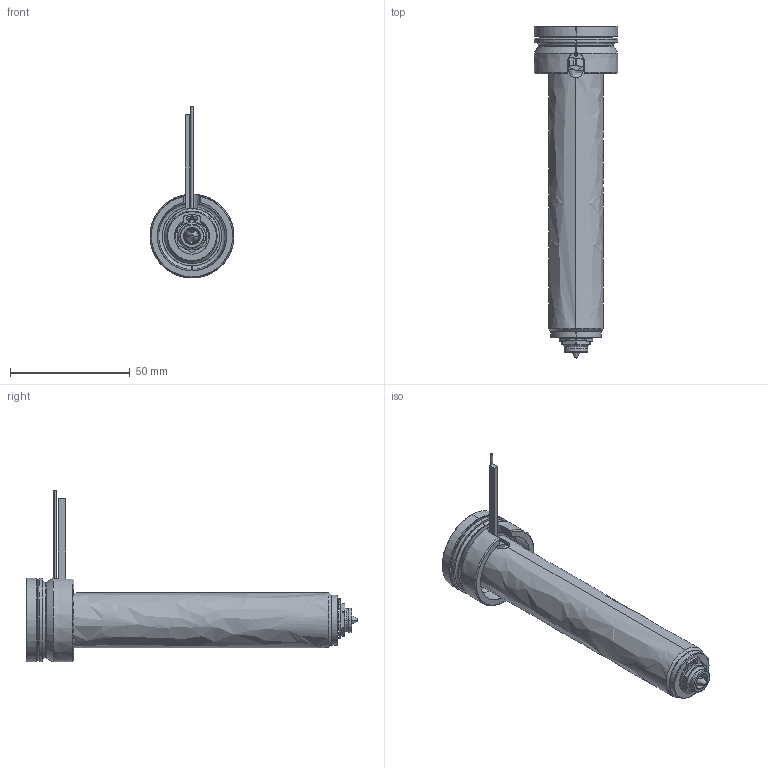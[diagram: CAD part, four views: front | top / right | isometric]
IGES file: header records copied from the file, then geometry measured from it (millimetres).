
Start section: SolidWorks IGES file using analytic representation for surfaces
Global section: file name: C:\Documents and Settings\ws-20\Desktop\TEM\UGEP3053-S-A-0 [Øf-1.10 ØC-7.0].IGS; native system: SolidWorks 2012; preprocessor: SolidWorks 2012; author: ws-20; date: 120402.143542; units: millimetre
Bounding box: 35 x 138.8 x 71.9 mm (x, y, z)
Surface area: 28402.1 mm2 (no closed solid volume)
Topology: 0 solids, 0 shells, 135 faces, 2187 edges, 2187 vertices
Faces by surface type: revolution 83, bspline 52
